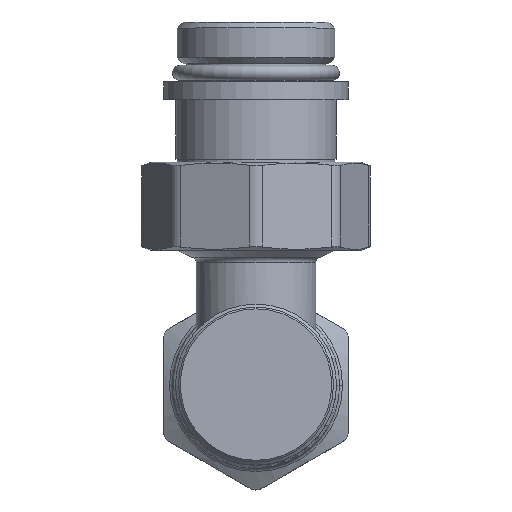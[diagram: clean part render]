
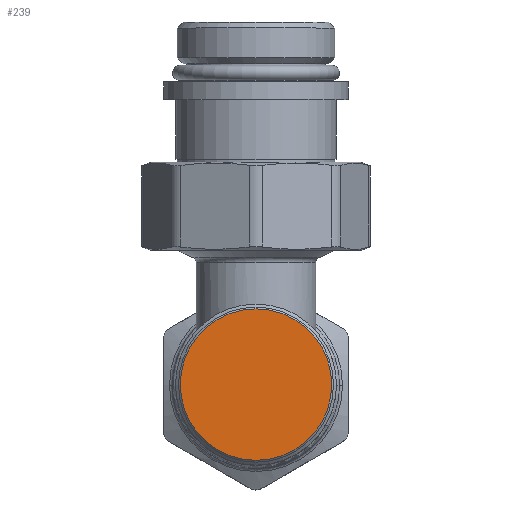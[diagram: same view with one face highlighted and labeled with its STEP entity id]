
A CAD part, top view. The second image highlights one B-rep face of the part: STEP entity #239.
In plain terms, the highlighted planar face has unit normal (0, 0, 1).
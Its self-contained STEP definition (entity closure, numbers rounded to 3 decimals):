
#239=ADVANCED_FACE('',(#2798),#2800,.T.);
#2798=FACE_BOUND('',#2799,.T.);
#2799=EDGE_LOOP('',(#3915));
#2800=PLANE('',#2801);
#2801=AXIS2_PLACEMENT_3D('',#2802,#2803,#2804);
#2802=CARTESIAN_POINT('',(0.,0.,30.));
#2803=DIRECTION('',(0.,0.,1.));
#2804=DIRECTION('',(-1.,0.,0.));
#3915=ORIENTED_EDGE('',*,*,#4391,.T.);
#4391=EDGE_CURVE('',#5199,#5199,#5200,.F.);
#5199=VERTEX_POINT('',#10866);
#5200=CIRCLE('',#10867,12.7);
#10866=CARTESIAN_POINT('',(0.,12.7,30.));
#10867=AXIS2_PLACEMENT_3D('',#10868,#10869,#10870);
#10868=CARTESIAN_POINT('',(0.,0.,30.));
#10869=DIRECTION('',(0.,0.,-1.));
#10870=DIRECTION('',(0.,1.,0.));
